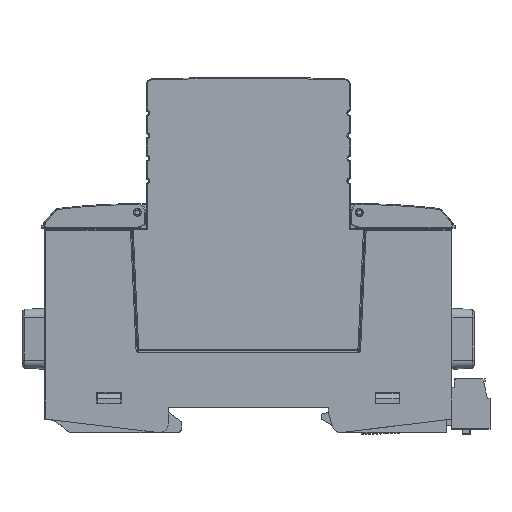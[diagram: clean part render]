
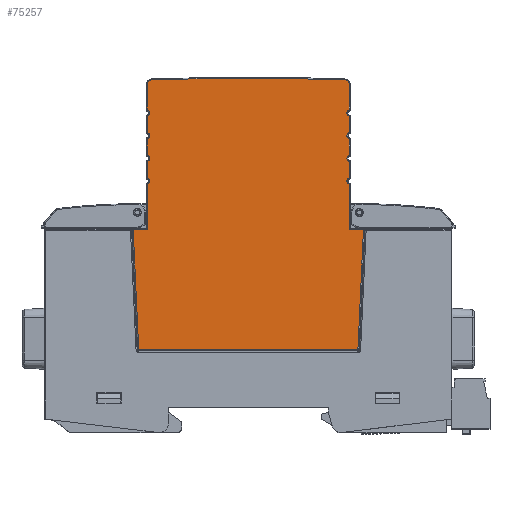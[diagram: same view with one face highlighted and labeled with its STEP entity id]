
A CAD part, top view. The second image highlights one B-rep face of the part: STEP entity #75257.
In plain terms, the highlighted planar face has unit normal (0, 0, 1) as drawn and (0, 0, -1) by its records, which use the part's own axes.
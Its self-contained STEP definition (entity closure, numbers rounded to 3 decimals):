
#3326=CIRCLE('',#82199,0.7);
#3344=CIRCLE('',#82225,599.8);
#3369=CIRCLE('',#82263,1.);
#3375=CIRCLE('',#82274,0.7);
#3386=CIRCLE('',#82294,0.7);
#3395=CIRCLE('',#82311,0.7);
#3438=CIRCLE('',#82426,0.3);
#3441=CIRCLE('',#82431,0.3);
#3478=CIRCLE('',#82583,0.7);
#3487=CIRCLE('',#82600,0.7);
#3498=CIRCLE('',#82620,0.7);
#3507=CIRCLE('',#82637,0.7);
#3517=CIRCLE('',#82654,1.);
#22932=ORIENTED_EDGE('',*,*,#34532,.T.);
#22933=ORIENTED_EDGE('',*,*,#34535,.F.);
#22934=ORIENTED_EDGE('',*,*,#34603,.F.);
#22935=ORIENTED_EDGE('',*,*,#34727,.F.);
#22936=ORIENTED_EDGE('',*,*,#34713,.F.);
#22937=ORIENTED_EDGE('',*,*,#34704,.F.);
#22938=ORIENTED_EDGE('',*,*,#34697,.F.);
#22939=ORIENTED_EDGE('',*,*,#34682,.F.);
#22940=ORIENTED_EDGE('',*,*,#34679,.F.);
#22941=ORIENTED_EDGE('',*,*,#34670,.F.);
#22942=ORIENTED_EDGE('',*,*,#34668,.F.);
#22943=ORIENTED_EDGE('',*,*,#34624,.F.);
#22944=ORIENTED_EDGE('',*,*,#35218,.F.);
#22945=ORIENTED_EDGE('',*,*,#35219,.F.);
#22946=ORIENTED_EDGE('',*,*,#35205,.F.);
#22947=ORIENTED_EDGE('',*,*,#35196,.F.);
#22948=ORIENTED_EDGE('',*,*,#35189,.F.);
#22949=ORIENTED_EDGE('',*,*,#35175,.F.);
#22950=ORIENTED_EDGE('',*,*,#35172,.F.);
#22951=ORIENTED_EDGE('',*,*,#35163,.F.);
#22952=ORIENTED_EDGE('',*,*,#35156,.F.);
#22953=ORIENTED_EDGE('',*,*,#34484,.F.);
#22954=ORIENTED_EDGE('',*,*,#34488,.T.);
#22955=ORIENTED_EDGE('',*,*,#34494,.T.);
#22956=ORIENTED_EDGE('',*,*,#34895,.T.);
#22957=ORIENTED_EDGE('',*,*,#34893,.T.);
#22958=ORIENTED_EDGE('',*,*,#34891,.T.);
#22959=ORIENTED_EDGE('',*,*,#35242,.T.);
#34484=EDGE_CURVE('',#42304,#42305,#50569,.T.);
#34488=EDGE_CURVE('',#42304,#42307,#50571,.T.);
#34494=EDGE_CURVE('',#42307,#42311,#50574,.T.);
#34532=EDGE_CURVE('',#42331,#42337,#50591,.T.);
#34535=EDGE_CURVE('',#42339,#42337,#50593,.T.);
#34603=EDGE_CURVE('',#42383,#42339,#3326,.T.);
#34624=EDGE_CURVE('',#42397,#42398,#3344,.T.);
#34668=EDGE_CURVE('',#42398,#42430,#3369,.T.);
#34670=EDGE_CURVE('',#42430,#42431,#50644,.T.);
#34679=EDGE_CURVE('',#42431,#42435,#3375,.T.);
#34682=EDGE_CURVE('',#42435,#42437,#50649,.T.);
#34697=EDGE_CURVE('',#42437,#42442,#3386,.T.);
#34704=EDGE_CURVE('',#42442,#42445,#50658,.T.);
#34713=EDGE_CURVE('',#42445,#42449,#3395,.T.);
#34727=EDGE_CURVE('',#42449,#42383,#50667,.T.);
#34891=EDGE_CURVE('',#42554,#42555,#3438,.T.);
#34893=EDGE_CURVE('',#42556,#42554,#50788,.T.);
#34895=EDGE_CURVE('',#42311,#42556,#3441,.T.);
#35156=EDGE_CURVE('',#42305,#42704,#3478,.T.);
#35163=EDGE_CURVE('',#42704,#42707,#51000,.T.);
#35172=EDGE_CURVE('',#42707,#42711,#3487,.T.);
#35175=EDGE_CURVE('',#42711,#42713,#51005,.T.);
#35189=EDGE_CURVE('',#42713,#42718,#3498,.T.);
#35196=EDGE_CURVE('',#42718,#42721,#51013,.T.);
#35205=EDGE_CURVE('',#42721,#42725,#3507,.T.);
#35218=EDGE_CURVE('',#42730,#42397,#3517,.T.);
#35219=EDGE_CURVE('',#42725,#42730,#51021,.T.);
#35242=EDGE_CURVE('',#42555,#42331,#51035,.T.);
#42304=VERTEX_POINT('',#130895);
#42305=VERTEX_POINT('',#130897);
#42307=VERTEX_POINT('',#130903);
#42311=VERTEX_POINT('',#130915);
#42331=VERTEX_POINT('',#130990);
#42337=VERTEX_POINT('',#131008);
#42339=VERTEX_POINT('',#131014);
#42383=VERTEX_POINT('',#131209);
#42397=VERTEX_POINT('',#131252);
#42398=VERTEX_POINT('',#131254);
#42430=VERTEX_POINT('',#131353);
#42431=VERTEX_POINT('',#131357);
#42435=VERTEX_POINT('',#131374);
#42437=VERTEX_POINT('',#131380);
#42442=VERTEX_POINT('',#131408);
#42445=VERTEX_POINT('',#131422);
#42449=VERTEX_POINT('',#131439);
#42554=VERTEX_POINT('',#131877);
#42555=VERTEX_POINT('',#131879);
#42556=VERTEX_POINT('',#131883);
#42704=VERTEX_POINT('',#132466);
#42707=VERTEX_POINT('',#132480);
#42711=VERTEX_POINT('',#132497);
#42713=VERTEX_POINT('',#132503);
#42718=VERTEX_POINT('',#132530);
#42721=VERTEX_POINT('',#132544);
#42725=VERTEX_POINT('',#132561);
#42730=VERTEX_POINT('',#132585);
#50569=LINE('',#130896,#58921);
#50571=LINE('',#130905,#58923);
#50574=LINE('',#130916,#58926);
#50591=LINE('',#131009,#58943);
#50593=LINE('',#131015,#58945);
#50644=LINE('',#131356,#58996);
#50649=LINE('',#131379,#59001);
#50658=LINE('',#131421,#59010);
#50667=LINE('',#131465,#59019);
#50788=LINE('',#131884,#59140);
#51000=LINE('',#132479,#59352);
#51005=LINE('',#132502,#59357);
#51013=LINE('',#132543,#59365);
#51021=LINE('',#132588,#59373);
#51035=LINE('',#132651,#59387);
#58921=VECTOR('',#99585,1000.);
#58923=VECTOR('',#99593,1000.);
#58926=VECTOR('',#99606,1000.);
#58943=VECTOR('',#99691,1000.);
#58945=VECTOR('',#99697,1000.);
#58996=VECTOR('',#99988,1000.);
#59001=VECTOR('',#100017,1000.);
#59010=VECTOR('',#100076,1000.);
#59019=VECTOR('',#100137,1000.);
#59140=VECTOR('',#100458,1000.);
#59352=VECTOR('',#100996,1000.);
#59357=VECTOR('',#101025,1000.);
#59365=VECTOR('',#101083,1000.);
#59373=VECTOR('',#101145,1000.);
#59387=VECTOR('',#101217,1000.);
#64041=EDGE_LOOP('',(#22932,#22933,#22934,#22935,#22936,#22937,#22938,#22939,
#22940,#22941,#22942,#22943,#22944,#22945,#22946,#22947,#22948,#22949,#22950,
#22951,#22952,#22953,#22954,#22955,#22956,#22957,#22958,#22959));
#68355=FACE_BOUND('',#64041,.T.);
#71444=PLANE('',#82685);
#75257=ADVANCED_FACE('',(#68355),#71444,.F.);
#82199=AXIS2_PLACEMENT_3D('',#131210,#99835,#99836);
#82225=AXIS2_PLACEMENT_3D('',#131253,#99890,#99891);
#82263=AXIS2_PLACEMENT_3D('',#131352,#99982,#99983);
#82274=AXIS2_PLACEMENT_3D('',#131373,#100009,#100010);
#82294=AXIS2_PLACEMENT_3D('',#131407,#100056,#100057);
#82311=AXIS2_PLACEMENT_3D('',#131438,#100097,#100098);
#82426=AXIS2_PLACEMENT_3D('',#131880,#100452,#100453);
#82431=AXIS2_PLACEMENT_3D('',#131887,#100463,#100464);
#82583=AXIS2_PLACEMENT_3D('',#132465,#100976,#100977);
#82600=AXIS2_PLACEMENT_3D('',#132496,#101017,#101018);
#82620=AXIS2_PLACEMENT_3D('',#132529,#101063,#101064);
#82637=AXIS2_PLACEMENT_3D('',#132560,#101104,#101105);
#82654=AXIS2_PLACEMENT_3D('',#132586,#101141,#101142);
#82685=AXIS2_PLACEMENT_3D('',#132652,#101218,#101219);
#99585=DIRECTION('',(0.,1.,0.));
#99593=DIRECTION('',(1.,0.,0.));
#99606=DIRECTION('',(-0.046,-0.999,0.));
#99691=DIRECTION('',(1.,0.,0.));
#99697=DIRECTION('',(0.,-1.,0.));
#99835=DIRECTION('',(0.,0.,-1.));
#99836=DIRECTION('',(0.286,0.958,0.));
#99890=DIRECTION('',(0.,0.,1.));
#99891=DIRECTION('',(0.036,0.999,0.));
#99982=DIRECTION('',(0.,0.,1.));
#99983=DIRECTION('',(-0.036,0.999,0.));
#99988=DIRECTION('',(0.,-1.,0.));
#100009=DIRECTION('',(0.,0.,-1.));
#100010=DIRECTION('',(0.286,0.958,0.));
#100017=DIRECTION('',(0.,-1.,0.));
#100056=DIRECTION('',(0.,0.,-1.));
#100057=DIRECTION('',(0.286,0.958,0.));
#100076=DIRECTION('',(0.,-1.,0.));
#100097=DIRECTION('',(0.,0.,-1.));
#100098=DIRECTION('',(0.286,0.958,0.));
#100137=DIRECTION('',(0.,-1.,0.));
#100452=DIRECTION('',(0.,0.,-1.));
#100453=DIRECTION('',(0.,-1.,0.));
#100458=DIRECTION('',(-1.,0.,0.));
#100463=DIRECTION('',(0.,0.,-1.));
#100464=DIRECTION('',(0.999,-0.046,0.));
#100976=DIRECTION('',(0.,0.,-1.));
#100977=DIRECTION('',(-0.286,-0.958,0.));
#100996=DIRECTION('',(0.,1.,0.));
#101017=DIRECTION('',(0.,0.,-1.));
#101018=DIRECTION('',(-0.286,-0.958,0.));
#101025=DIRECTION('',(0.,1.,0.));
#101063=DIRECTION('',(0.,0.,-1.));
#101064=DIRECTION('',(-0.286,-0.958,0.));
#101083=DIRECTION('',(0.,1.,0.));
#101104=DIRECTION('',(0.,0.,-1.));
#101105=DIRECTION('',(-0.286,-0.958,0.));
#101141=DIRECTION('',(0.,0.,1.));
#101142=DIRECTION('',(1.,0.,0.));
#101145=DIRECTION('',(0.,1.,0.));
#101217=DIRECTION('',(-0.046,0.999,0.));
#101218=DIRECTION('',(0.,0.,1.));
#101219=DIRECTION('',(1.,0.,0.));
#130895=CARTESIAN_POINT('',(22.3,25.72,-8.9));
#130896=CARTESIAN_POINT('',(22.3,25.72,-8.9));
#130897=CARTESIAN_POINT('',(22.3,35.829,-8.9));
#130903=CARTESIAN_POINT('',(25.433,25.72,-8.9));
#130905=CARTESIAN_POINT('',(22.3,25.72,-8.9));
#130915=CARTESIAN_POINT('',(24.222,-0.514,-8.9));
#130916=CARTESIAN_POINT('',(25.433,25.72,-8.9));
#130990=CARTESIAN_POINT('',(-25.433,25.72,-8.9));
#131008=CARTESIAN_POINT('',(-22.3,25.72,-8.9));
#131009=CARTESIAN_POINT('',(-25.433,25.72,-8.9));
#131014=CARTESIAN_POINT('',(-22.3,35.829,-8.9));
#131015=CARTESIAN_POINT('',(-22.3,35.829,-8.9));
#131209=CARTESIAN_POINT('',(-22.3,37.171,-8.9));
#131210=CARTESIAN_POINT('',(-22.5,36.5,-8.9));
#131252=CARTESIAN_POINT('',(21.336,58.842,-8.9));
#131253=CARTESIAN_POINT('',(0.,-540.578,-8.9));
#131254=CARTESIAN_POINT('',(-21.336,58.842,-8.9));
#131352=CARTESIAN_POINT('',(-21.3,57.843,-8.9));
#131353=CARTESIAN_POINT('',(-22.3,57.843,-8.9));
#131356=CARTESIAN_POINT('',(-22.3,57.843,-8.9));
#131357=CARTESIAN_POINT('',(-22.3,52.171,-8.9));
#131373=CARTESIAN_POINT('',(-22.5,51.5,-8.9));
#131374=CARTESIAN_POINT('',(-22.3,50.829,-8.9));
#131379=CARTESIAN_POINT('',(-22.3,50.829,-8.9));
#131380=CARTESIAN_POINT('',(-22.3,47.171,-8.9));
#131407=CARTESIAN_POINT('',(-22.5,46.5,-8.9));
#131408=CARTESIAN_POINT('',(-22.3,45.829,-8.9));
#131421=CARTESIAN_POINT('',(-22.3,45.829,-8.9));
#131422=CARTESIAN_POINT('',(-22.3,42.171,-8.9));
#131438=CARTESIAN_POINT('',(-22.5,41.5,-8.9));
#131439=CARTESIAN_POINT('',(-22.3,40.829,-8.9));
#131465=CARTESIAN_POINT('',(-22.3,40.829,-8.9));
#131877=CARTESIAN_POINT('',(-23.923,-0.8,-8.9));
#131879=CARTESIAN_POINT('',(-24.222,-0.514,-8.9));
#131880=CARTESIAN_POINT('',(-23.923,-0.5,-8.9));
#131883=CARTESIAN_POINT('',(23.923,-0.8,-8.9));
#131884=CARTESIAN_POINT('',(23.923,-0.8,-8.9));
#131887=CARTESIAN_POINT('',(23.923,-0.5,-8.9));
#132465=CARTESIAN_POINT('',(22.5,36.5,-8.9));
#132466=CARTESIAN_POINT('',(22.3,37.171,-8.9));
#132479=CARTESIAN_POINT('',(22.3,37.171,-8.9));
#132480=CARTESIAN_POINT('',(22.3,40.829,-8.9));
#132496=CARTESIAN_POINT('',(22.5,41.5,-8.9));
#132497=CARTESIAN_POINT('',(22.3,42.171,-8.9));
#132502=CARTESIAN_POINT('',(22.3,42.171,-8.9));
#132503=CARTESIAN_POINT('',(22.3,45.829,-8.9));
#132529=CARTESIAN_POINT('',(22.5,46.5,-8.9));
#132530=CARTESIAN_POINT('',(22.3,47.171,-8.9));
#132543=CARTESIAN_POINT('',(22.3,47.171,-8.9));
#132544=CARTESIAN_POINT('',(22.3,50.829,-8.9));
#132560=CARTESIAN_POINT('',(22.5,51.5,-8.9));
#132561=CARTESIAN_POINT('',(22.3,52.171,-8.9));
#132585=CARTESIAN_POINT('',(22.3,57.843,-8.9));
#132586=CARTESIAN_POINT('',(21.3,57.843,-8.9));
#132588=CARTESIAN_POINT('',(22.3,52.171,-8.9));
#132651=CARTESIAN_POINT('',(-24.222,-0.514,-8.9));
#132652=CARTESIAN_POINT('',(0.,0.,-8.9));
